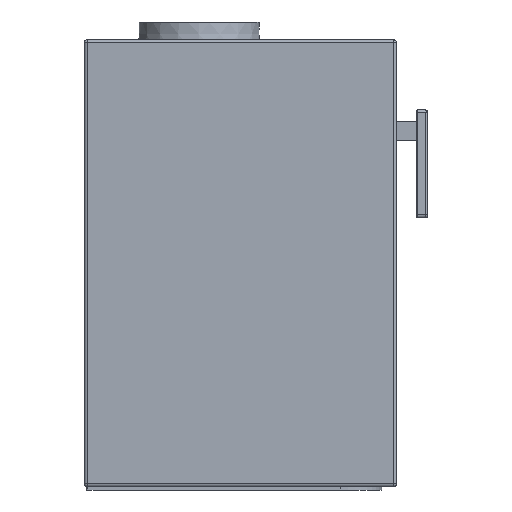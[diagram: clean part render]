
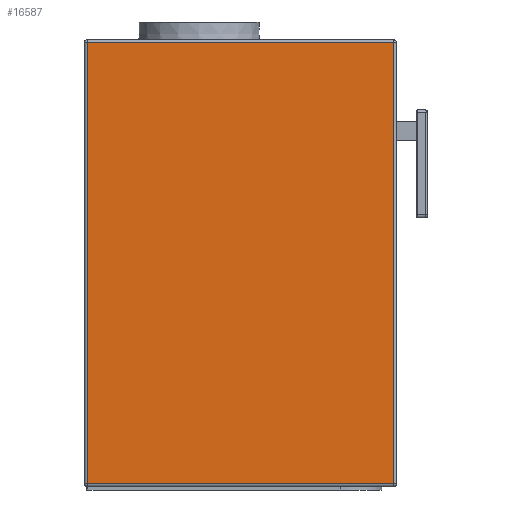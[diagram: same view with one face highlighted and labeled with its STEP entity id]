
A CAD part, left-side view. The second image highlights one B-rep face of the part: STEP entity #16587.
In plain terms, the highlighted planar face has unit normal (-1, 0, 0).
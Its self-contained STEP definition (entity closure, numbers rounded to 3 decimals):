
#4840=ORIENTED_EDGE('',*,*,#7806,.T.);
#4841=ORIENTED_EDGE('',*,*,#7290,.T.);
#4842=ORIENTED_EDGE('',*,*,#7292,.T.);
#4843=ORIENTED_EDGE('',*,*,#7815,.T.);
#7290=EDGE_CURVE('',#9237,#8978,#10325,.T.);
#7292=EDGE_CURVE('',#8978,#9255,#10326,.F.);
#7806=EDGE_CURVE('',#9511,#9237,#10762,.T.);
#7815=EDGE_CURVE('',#9255,#9511,#10768,.F.);
#8978=VERTEX_POINT('',#26900);
#9237=VERTEX_POINT('',#28266);
#9255=VERTEX_POINT('',#28338);
#9511=VERTEX_POINT('',#33648);
#10325=LINE('',#28334,#11489);
#10326=LINE('',#28339,#11490);
#10762=LINE('',#33651,#11926);
#10768=LINE('',#33667,#11932);
#11489=VECTOR('',#22291,1000.);
#11490=VECTOR('',#22296,1000.);
#11926=VECTOR('',#23108,1000.);
#11932=VECTOR('',#23132,1000.);
#13327=EDGE_LOOP('',(#4840,#4841,#4842,#4843));
#14855=FACE_BOUND('',#13327,.T.);
#15652=PLANE('',#18965);
#16587=ADVANCED_FACE('',(#14855),#15652,.T.);
#18965=AXIS2_PLACEMENT_3D('',#33666,#23130,#23131);
#22291=DIRECTION('',(0.,-1.,0.));
#22296=DIRECTION('',(0.,0.,-1.));
#23108=DIRECTION('',(0.,0.,-1.));
#23130=DIRECTION('',(-1.,0.,0.));
#23131=DIRECTION('',(0.,0.,1.));
#23132=DIRECTION('',(0.,-1.,0.));
#26900=CARTESIAN_POINT('',(-231.5,-39.1,-23.6));
#28266=CARTESIAN_POINT('',(-231.5,329.1,-23.6));
#28334=CARTESIAN_POINT('',(-231.5,332.5,-23.6));
#28338=CARTESIAN_POINT('',(-231.5,-39.1,506.1));
#28339=CARTESIAN_POINT('',(-231.5,-39.1,-27.));
#33648=CARTESIAN_POINT('',(-231.5,329.1,506.1));
#33651=CARTESIAN_POINT('',(-231.5,329.1,-27.));
#33666=CARTESIAN_POINT('',(-231.5,332.5,-27.));
#33667=CARTESIAN_POINT('',(-231.5,332.5,506.1));
